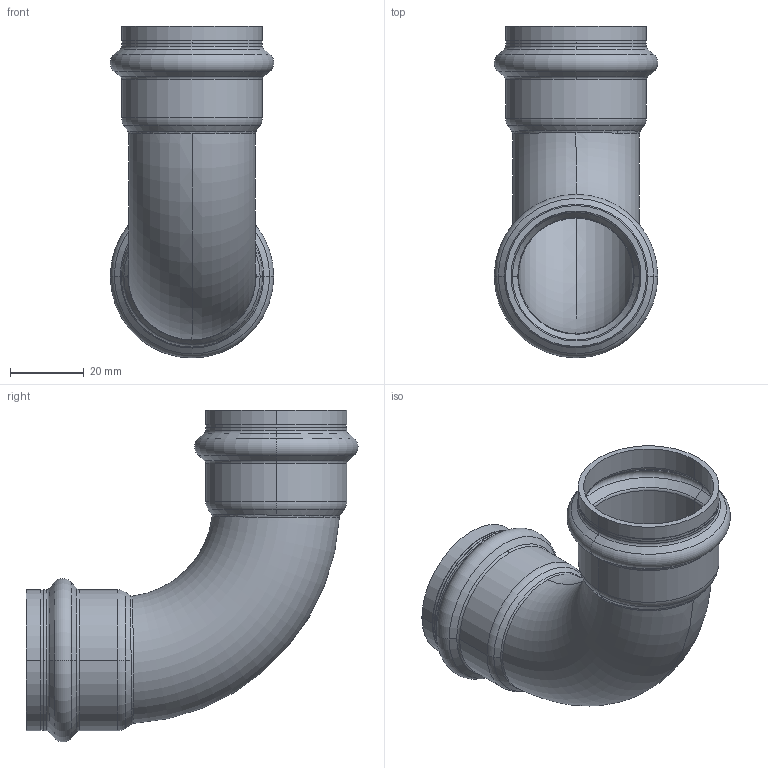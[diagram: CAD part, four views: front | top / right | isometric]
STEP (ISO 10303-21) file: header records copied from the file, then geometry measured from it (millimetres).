
FILE_DESCRIPTION (( 'STEP AP203' ), '1' );
FILE_NAME ('SP5002 Ø35.STEP', '2017-04-24T08:05:10', ( '' ), ( '' ), 'SwSTEP 2.0', 'SolidWorks 2016', '' );
FILE_SCHEMA (( 'CONFIG_CONTROL_DESIGN' ));
Length unit declared in the file: millimetre
Products named in the file (1): SP5002 ﾘ35
Bounding box: 44.44 x 90.22 x 90.22 mm (x, y, z)
Volume: 21304.5 mm3; surface area: 27957.6 mm2
Topology: 1 solids, 1 shells, 98 faces, 228 edges, 136 vertices
Faces by surface type: torus 36, cone 24, cylinder 24, bspline 8, plane 6
Entity records: 4849 total; most frequent: CARTESIAN_POINT 2511, DIRECTION 526, ORIENTED_EDGE 456, AXIS2_PLACEMENT_3D 239, EDGE_CURVE 228, CIRCLE 148, VERTEX_POINT 136, EDGE_LOOP 104
